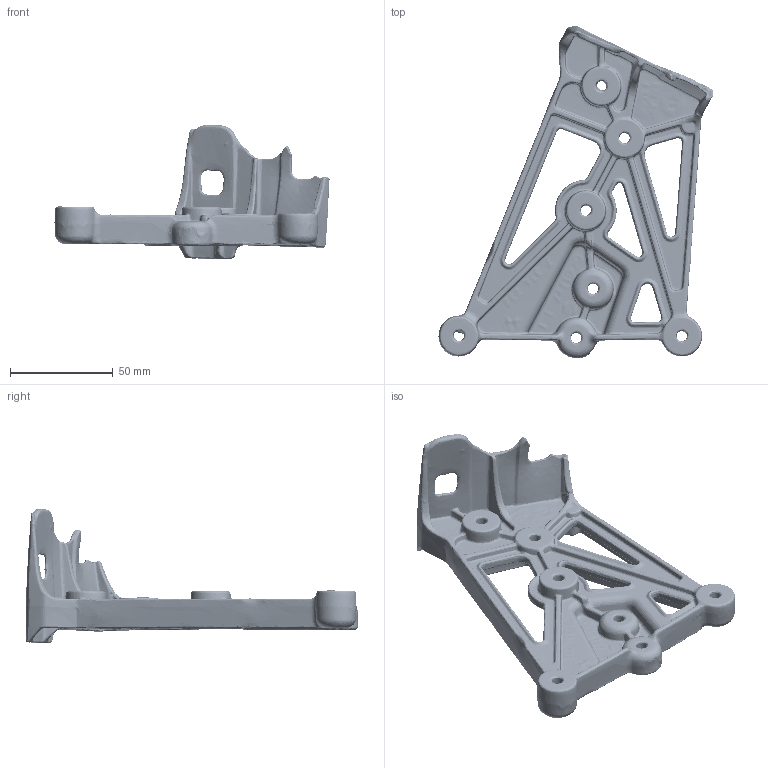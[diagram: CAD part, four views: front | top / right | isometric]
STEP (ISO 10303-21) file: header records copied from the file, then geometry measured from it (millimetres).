
FILE_DESCRIPTION (( 'STEP AP214' ), '1' );
FILE_NAME ('Part2.STEP', '2026-08-10T11:12:58', ( '' ), ( '' ), 'SwSTEP 2.0', 'SolidWorks 2025', '' );
FILE_SCHEMA (( 'AUTOMOTIVE_DESIGN' ));
Products named in the file (1): Part2
Bounding box: 134.02 x 161.79 x 65.45 mm (x, y, z)
Volume: 87173.2 mm3; surface area: 49869.8 mm2
Topology: 1 solids, 1 shells, 56590 faces, 84885 edges, 28273 vertices
Faces by surface type: plane 56590
Entity records: 1103492 total; most frequent: DIRECTION 198067, ORIENTED_EDGE 169770, CARTESIAN_POINT 169749, LINE 84885, EDGE_CURVE 84885, VECTOR 84885, AXIS2_PLACEMENT_3D 56591, ADVANCED_FACE 56590
